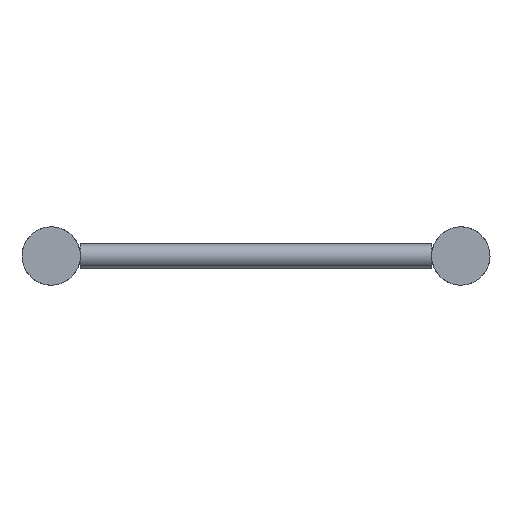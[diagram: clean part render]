
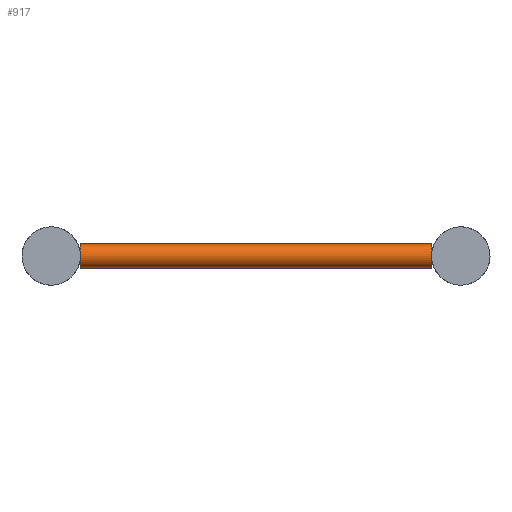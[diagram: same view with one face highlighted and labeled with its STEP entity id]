
A CAD part, left-side view. The second image highlights one B-rep face of the part: STEP entity #917.
In plain terms, the highlighted cylindrical face has radius 10 mm (diameter 20 mm), a full revolution.
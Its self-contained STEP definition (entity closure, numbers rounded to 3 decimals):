
#139=FACE_BOUND('',#297,.T.);
#220=FACE_OUTER_BOUND('',#296,.T.);
#296=EDGE_LOOP('',(#681,#682));
#297=EDGE_LOOP('',(#683,#684));
#385=CIRCLE('',#1018,10.);
#386=CIRCLE('',#1020,10.);
#387=CIRCLE('',#1022,10.);
#388=CIRCLE('',#1024,10.);
#445=VERTEX_POINT('',#1457);
#446=VERTEX_POINT('',#1458);
#447=VERTEX_POINT('',#1462);
#448=VERTEX_POINT('',#1463);
#536=EDGE_CURVE('',#446,#445,#385,.T.);
#538=EDGE_CURVE('',#448,#447,#386,.T.);
#539=EDGE_CURVE('',#445,#446,#387,.T.);
#540=EDGE_CURVE('',#447,#448,#388,.T.);
#681=ORIENTED_EDGE('',*,*,#539,.T.);
#682=ORIENTED_EDGE('',*,*,#536,.T.);
#683=ORIENTED_EDGE('',*,*,#540,.T.);
#684=ORIENTED_EDGE('',*,*,#538,.T.);
#805=CYLINDRICAL_SURFACE('',#1023,10.);
#917=ADVANCED_FACE('',(#220,#139),#805,.T.);
#1018=AXIS2_PLACEMENT_3D('',#1460,#1224,#1225);
#1020=AXIS2_PLACEMENT_3D('',#1465,#1229,#1230);
#1022=AXIS2_PLACEMENT_3D('',#1467,#1233,#1234);
#1023=AXIS2_PLACEMENT_3D('',#1468,#1235,#1236);
#1024=AXIS2_PLACEMENT_3D('',#1469,#1237,#1238);
#1224=DIRECTION('center_axis',(0.,1.,0.));
#1225=DIRECTION('ref_axis',(-1.,0.,0.));
#1229=DIRECTION('center_axis',(0.,-1.,0.));
#1230=DIRECTION('ref_axis',(-1.,0.,0.));
#1233=DIRECTION('center_axis',(0.,1.,0.));
#1234=DIRECTION('ref_axis',(-1.,0.,0.));
#1235=DIRECTION('center_axis',(0.,1.,0.));
#1236=DIRECTION('ref_axis',(-1.,0.,0.));
#1237=DIRECTION('center_axis',(0.,-1.,0.));
#1238=DIRECTION('ref_axis',(-1.,0.,0.));
#1457=CARTESIAN_POINT('',(70.,24.15,0.));
#1458=CARTESIAN_POINT('',(50.,24.15,0.));
#1460=CARTESIAN_POINT('Origin',(60.,24.15,0.));
#1462=CARTESIAN_POINT('',(70.,314.85,0.));
#1463=CARTESIAN_POINT('',(50.,314.85,0.));
#1465=CARTESIAN_POINT('Origin',(60.,314.85,0.));
#1467=CARTESIAN_POINT('Origin',(60.,24.15,0.));
#1468=CARTESIAN_POINT('Origin',(60.,169.5,0.));
#1469=CARTESIAN_POINT('Origin',(60.,314.85,0.));
